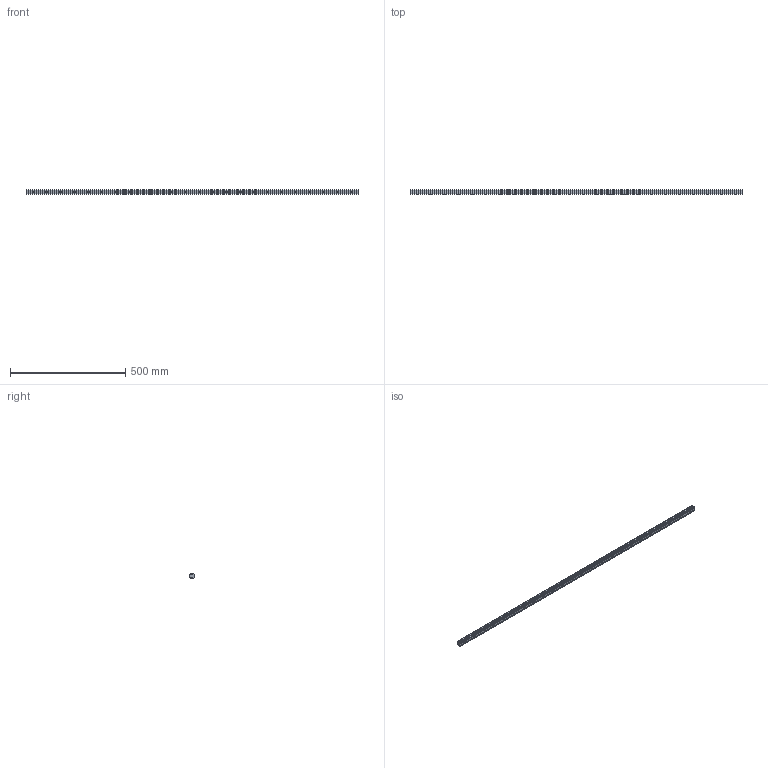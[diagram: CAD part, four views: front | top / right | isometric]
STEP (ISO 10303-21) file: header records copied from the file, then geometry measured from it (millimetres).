
FILE_DESCRIPTION (( 'STEP AP203' ), '1' );
FILE_NAME ('L1018.20R-1440.step', '2023-08-06T09:08:34', ( '' ), ( '' ), 'SwSTEP 2.0', 'SolidWorks 2019', '' );
FILE_SCHEMA (( 'CONFIG_CONTROL_DESIGN' ));
Length unit declared in the file: millimetre
Products named in the file (1): L1018.20R-1440
Bounding box: 1440 x 19.3 x 20 mm (x, y, z)
Volume: 456664.7 mm3; surface area: 122171.7 mm2
Topology: 1 solids, 1 shells, 245 faces, 561 edges, 318 vertices
Faces by surface type: cylinder 99, cone 96, plane 50
Entity records: 6614 total; most frequent: DIRECTION 1251, CARTESIAN_POINT 1077, ORIENTED_EDGE 1026, EDGE_CURVE 513, AXIS2_PLACEMENT_3D 492, VERTEX_POINT 318, EDGE_LOOP 293, LINE 267
